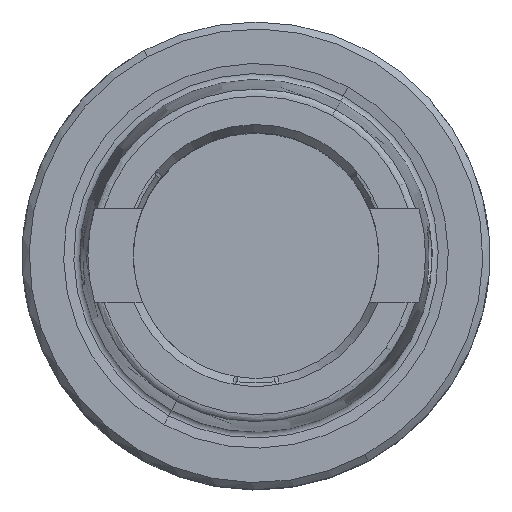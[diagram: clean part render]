
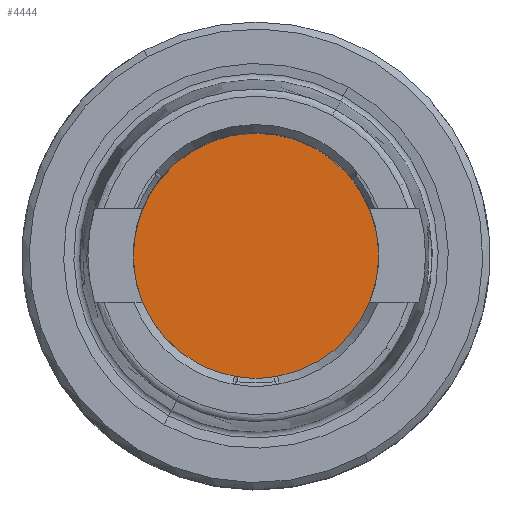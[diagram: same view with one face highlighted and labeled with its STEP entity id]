
A CAD part, top view. The second image highlights one B-rep face of the part: STEP entity #4444.
In plain terms, the highlighted planar face has unit normal (0, 0, 1).
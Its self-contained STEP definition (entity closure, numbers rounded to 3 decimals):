
#3740=AXIS2_PLACEMENT_3D('Circle Axis2P3D',#3738,#3739,$) ;
#4031=AXIS2_PLACEMENT_3D('Circle Axis2P3D',#4029,#4030,$) ;
#4438=AXIS2_PLACEMENT_3D('Plane Axis2P3D',#4435,#4436,#4437) ;
#3735=CARTESIAN_POINT('Vertex',(5.034,9.215,-8.)) ;
#3738=CARTESIAN_POINT('Axis2P3D Location',(0.,0.,-8.)) ;
#3742=CARTESIAN_POINT('Vertex',(-5.034,-9.215,-8.)) ;
#4029=CARTESIAN_POINT('Axis2P3D Location',(0.,0.,-8.)) ;
#4435=CARTESIAN_POINT('Axis2P3D Location',(0.,-10.5,-8.)) ;
#3739=DIRECTION('Axis2P3D Direction',(0.,0.,-1.)) ;
#4030=DIRECTION('Axis2P3D Direction',(0.,0.,-1.)) ;
#4436=DIRECTION('Axis2P3D Direction',(0.,0.,-1.)) ;
#4437=DIRECTION('Axis2P3D XDirection',(-1.,0.,0.)) ;
#4441=ORIENTED_EDGE('',*,*,#3744,.F.) ;
#4442=ORIENTED_EDGE('',*,*,#4033,.F.) ;
#4444=ADVANCED_FACE('NOCUT',(#4443),#4439,.F.) ;
#3741=CIRCLE('generated circle',#3740,10.5) ;
#4032=CIRCLE('generated circle',#4031,10.5) ;
#3744=EDGE_CURVE('',#3736,#3743,#3741,.T.) ;
#4033=EDGE_CURVE('',#3743,#3736,#4032,.T.) ;
#4440=EDGE_LOOP('',(#4441,#4442)) ;
#4443=FACE_OUTER_BOUND('',#4440,.T.) ;
#4439=PLANE('',#4438) ;
#3736=VERTEX_POINT('',#3735) ;
#3743=VERTEX_POINT('',#3742) ;
